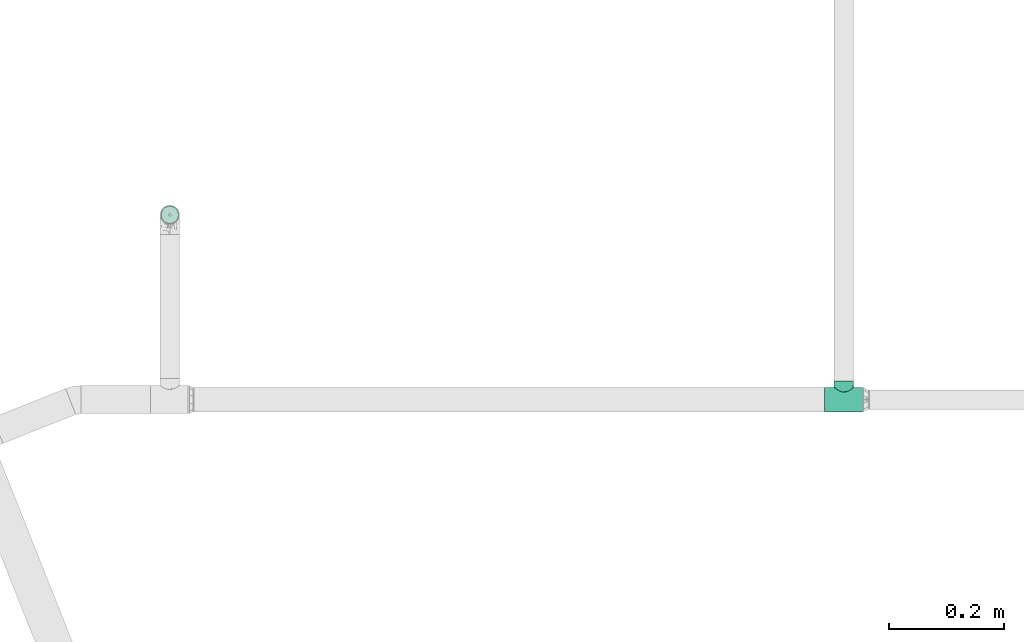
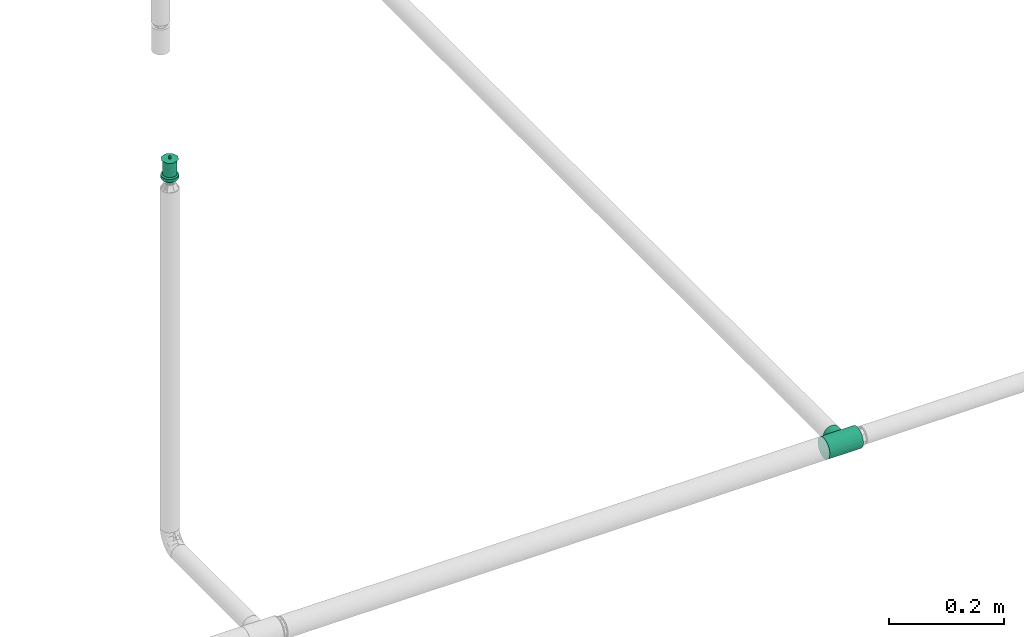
# One storey, part 44 of 94: 1 flow fitting, 1 flow terminal.
"""IFC2X3 building model written with IfcOpenShell, lengths in millimetres."""

from ifc_helpers import new_model, entity, si_unit, converted_unit, derived_unit, direction, frame, origin_with_axes, place, context, subcontext, project, spatial, open_shell, surface_model, source, transform, mapped, type_object, element, save


model = new_model("IFC2X3")

# Units and contexts
model_context = context("Model", 3, precision=0.01, world=frame((0.0, 4.29681676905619e-09, 0.0)), true_north=direction((4.01073788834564e-13, 1.0)))
plan_context = context("Plan", 3, precision=0.01, world=frame((0.0, 4.29681676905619e-09, 0.0)), true_north=direction((4.01073788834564e-13, 1.0)))
body_context = subcontext(model_context, "Body", "Model", "MODEL_VIEW")
ifc_project = project(units=[converted_unit("PLANEANGLEUNIT", "DEGREE", entity("IfcPositiveLengthMeasure", 0.0174532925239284), si_unit("PLANEANGLEUNIT", "RADIAN"), dimensions=[0, 0, 0, 0, 0, 0, 0]), si_unit("AREAUNIT", "SQUARE_METRE"), si_unit("LENGTHUNIT", "METRE", prefix="MILLI"), si_unit("MASSUNIT", "GRAM", prefix="KILO"), si_unit("POWERUNIT", "WATT"), si_unit("PRESSUREUNIT", "PASCAL", prefix="KILO"), si_unit("FORCEUNIT", "NEWTON", prefix="KILO"), si_unit("ELECTRICVOLTAGEUNIT", "VOLT"), si_unit("ELECTRICCURRENTUNIT", "AMPERE"), si_unit("THERMODYNAMICTEMPERATUREUNIT", "DEGREE_CELSIUS"), si_unit("TIMEUNIT", "SECOND"), si_unit("VOLUMEUNIT", "CUBIC_METRE"), derived_unit("LINEARVELOCITYUNIT", [(si_unit("LENGTHUNIT", "METRE"), 1), (si_unit("TIMEUNIT", "SECOND"), -1)]), derived_unit("VOLUMETRICFLOWRATEUNIT", [(si_unit("VOLUMEUNIT", "CUBIC_METRE"), 1), (si_unit("TIMEUNIT", "SECOND"), -1)]), derived_unit("THERMALTRANSMITTANCEUNIT", [(si_unit("POWERUNIT", "WATT"), 1), (si_unit("THERMODYNAMICTEMPERATUREUNIT", "KELVIN"), -1), (si_unit("AREAUNIT", "SQUARE_METRE"), -1)]), derived_unit("SOUNDPRESSUREUNIT", [(si_unit("PRESSUREUNIT", "PASCAL"), 1)])], contexts=[model_context, plan_context])

# Site, building, storey
site_placement = place(None, frame((0.0, -4.29681676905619e-09, 0.0), z_axis=(0.0, 0.0, 1.0), x_axis=(1.0, 0.0, 0.0)))
site = spatial("IfcSite", under=ifc_project, at=site_placement, CompositionType="ELEMENT")
building_placement = place(site_placement, frame((0.0, 4.29681676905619e-09, 0.0), z_axis=(0.0, 0.0, 1.0), x_axis=(1.0, 0.0, 0.0)))
building = spatial("IfcBuilding", under=site, at=building_placement, Name="mc-building", CompositionType="ELEMENT")
storey_placement = place(building_placement, frame((0.0, 0.0, 210900.0), z_axis=(0.0, 0.0, 1.0), x_axis=(1.0, 0.0, 0.0)))
storey = spatial("IfcBuildingStorey", under=building, at=storey_placement, Name="Nivå F", CompositionType="ELEMENT", Elevation=210900.0)

# Flow fitting
pipe_fitting_type = type_object("IfcPipeFittingType", Name="magi_pipe_fe_tee_centric_90_NOR", PredefinedType="JUNCTION")
shared_shape_1 = source(origin_with_axes(), body_context, "Body", "SurfaceModel", [
    surface_model("IfcShellBasedSurfaceModel", [(-33.8, 0.0, -21.2), (-33.8, -5.48696, -20.47763), (-33.8, 5.48696, -20.47763), (-33.8, 10.6, -18.35974), (-33.8, 14.99066, -14.99066), (-33.8, -20.47763, 5.48696), (-33.8, 18.35974, -10.6), (-33.8, 10.6, 18.35974), (-33.8, -14.99066, -14.99066), (-33.8, -18.35974, -10.6), (-33.8, -10.6, -18.35974), (-33.8, -20.47763, -5.48696), (-33.8, -21.2, 0.0), (-33.8, 18.35974, 10.6), (-33.8, 20.47763, -5.48696), (-33.8, 20.47763, 5.48696), (-33.8, 21.2, 0.0), (-33.8, 14.99066, 14.99066), (-33.8, 5.48696, 20.47763), (-33.8, 0.0, 21.2), (-33.8, -18.35974, 10.6), (-33.8, -14.99066, 14.99066), (-33.8, -10.6, 18.35974), (-33.8, -5.48696, 20.47763), (33.8, 5.48696, -20.47763), (33.8, -5.48696, -20.47763), (33.8, 0.0, -21.2), (33.8, 14.99066, -14.99066), (33.8, 10.6, -18.35974), (33.8, 18.35974, -10.6), (33.8, 20.47763, -5.48696), (33.8, -21.2, 0.0), (33.8, -10.6, -18.35974), (33.8, -18.35974, -10.6), (33.8, -14.99066, -14.99066), (33.8, -20.47763, -5.48696), (33.8, -20.47763, 5.48696), (33.8, 21.2, 0.0), (33.8, 20.47763, 5.48696), (33.8, 18.35974, 10.6), (33.8, 10.6, 18.35974), (33.8, 14.99066, 14.99066), (33.8, 0.0, 21.2), (33.8, 5.48696, 20.47763), (33.8, -14.99066, 14.99066), (33.8, -18.35974, 10.6), (33.8, -10.6, 18.35974), (33.8, -5.48696, 20.47763), (16.9, -21.2, 0.0), (15.78624, -20.32327, 6.03364), (12.81343, -18.11115, 11.01935), (8.52479, -15.37862, 14.59239), (3.07939, -13.16482, 16.61708), (-16.9, -21.2, 0.0), (-15.78686, -20.32375, 6.032), (-8.52604, -15.37932, 14.59166), (-3.0848, -13.16609, 16.61608), (-12.81602, -18.11299, 11.01634), (3.07939, -13.16482, -16.61708), (12.81343, -18.11115, -11.01935), (8.52479, -15.37862, -14.59239), (15.78624, -20.32327, -6.03364), (-3.0848, -13.16609, -16.61608), (-8.52604, -15.37932, -14.59166), (-12.81602, -18.11299, -11.01634), (-15.78686, -20.32375, -6.032), (4.37404, -31.8, -16.32415), (-16.9, -31.8, 0.0), (0.0, -31.8, -16.9), (14.63583, -31.8, -8.45), (8.45, -31.8, -14.63583), (16.32415, -31.8, -4.37404), (11.9501, -31.8, -11.9501), (-11.9501, -31.8, -11.9501), (-8.45, -31.8, -14.63583), (-4.37404, -31.8, -16.32415), (-14.63583, -31.8, -8.45), (-16.32415, -31.8, -4.37404), (16.9, -31.8, 0.0), (8.45, -31.8, 14.63583), (16.32415, -31.8, 4.37404), (14.63583, -31.8, 8.45), (-8.45, -31.8, 14.63583), (11.9501, -31.8, 11.9501), (4.37404, -31.8, 16.32415), (-16.32415, -31.8, 4.37404), (-11.9501, -31.8, 11.9501), (-14.63583, -31.8, 8.45), (0.0, -31.8, 16.9), (-4.37404, -31.8, 16.32415), (-16.34343, -20.76188, 3.016), (16.34312, -20.76163, 3.01682), (-0.00271, -13.16546, 16.61658), (16.34312, -20.76163, -3.01682), (-0.00271, -13.16546, -16.61658), (-16.34343, -20.76188, -3.016)], [open_shell([[[0, 1, 2]], [[3, 2, 4]], [[5, 2, 1]], [[4, 2, 6]], [[6, 2, 7]], [[8, 9, 10]], [[1, 10, 9]], [[9, 11, 1]], [[12, 1, 11]], [[5, 1, 12]], [[13, 14, 6]], [[13, 15, 16]], [[6, 7, 13]], [[5, 7, 2]], [[17, 13, 7]], [[18, 7, 19]], [[20, 21, 5]], [[22, 5, 21]], [[23, 19, 22]], [[7, 5, 22]], [[22, 19, 7]], [[16, 14, 13]], [[24, 25, 26]], [[27, 24, 28]], [[29, 30, 24]], [[29, 24, 27]], [[31, 24, 30]], [[32, 33, 34]], [[33, 32, 25]], [[33, 31, 35]], [[31, 33, 25]], [[25, 24, 31]], [[30, 36, 31]], [[37, 38, 39]], [[37, 39, 40]], [[37, 40, 36]], [[40, 39, 41]], [[42, 40, 43]], [[36, 44, 45]], [[44, 36, 46]], [[46, 42, 47]], [[46, 36, 40]], [[40, 42, 46]], [[37, 36, 30]], [[31, 36, 48]], [[49, 48, 36]], [[36, 45, 49]], [[45, 44, 50]], [[51, 50, 44]], [[52, 51, 44]], [[44, 46, 52]], [[45, 50, 49]], [[53, 54, 5]], [[5, 12, 53]], [[54, 20, 5]], [[55, 56, 21]], [[20, 57, 21]], [[57, 20, 54]], [[21, 57, 55]], [[56, 22, 21]], [[52, 22, 56]], [[19, 47, 42]], [[23, 46, 47]], [[18, 42, 43]], [[39, 38, 15]], [[17, 40, 41]], [[13, 41, 39]], [[43, 40, 7]], [[16, 38, 37]], [[22, 46, 23]], [[23, 47, 19]], [[18, 19, 42]], [[43, 7, 18]], [[7, 40, 17]], [[13, 17, 41]], [[15, 13, 39]], [[38, 16, 15]], [[46, 22, 52]], [[6, 30, 29]], [[14, 37, 30]], [[4, 29, 27]], [[26, 25, 1]], [[2, 28, 24]], [[0, 24, 26]], [[27, 28, 3]], [[10, 25, 32]], [[16, 37, 14]], [[14, 30, 6]], [[4, 6, 29]], [[27, 3, 4]], [[3, 28, 2]], [[0, 2, 24]], [[1, 0, 26]], [[25, 10, 1]], [[32, 58, 10]], [[34, 59, 60]], [[59, 34, 33]], [[60, 58, 34]], [[34, 58, 32]], [[35, 31, 48]], [[35, 61, 33]], [[61, 35, 48]], [[33, 61, 59]], [[62, 63, 8]], [[8, 64, 9]], [[64, 8, 63]], [[62, 8, 10]], [[65, 53, 11]], [[65, 11, 9]], [[11, 53, 12]], [[65, 9, 64]], [[58, 62, 10]], [[66, 67, 68]], [[69, 66, 70]], [[69, 71, 66]], [[69, 70, 72]], [[67, 66, 71]], [[68, 73, 74]], [[74, 75, 68]], [[76, 67, 77]], [[73, 68, 76]], [[67, 76, 68]], [[71, 78, 67]], [[79, 78, 80]], [[79, 80, 81]], [[82, 67, 79]], [[79, 81, 83]], [[82, 79, 84]], [[85, 86, 87]], [[86, 85, 82]], [[82, 88, 89]], [[85, 67, 82]], [[84, 88, 82]], [[79, 67, 78]], [[85, 90, 67]], [[57, 87, 86]], [[85, 87, 54]], [[86, 82, 55]], [[85, 54, 90]], [[90, 53, 67]], [[54, 87, 57]], [[91, 49, 80]], [[55, 89, 56]], [[55, 57, 86]], [[88, 52, 92]], [[55, 82, 89]], [[52, 88, 84]], [[79, 51, 84]], [[50, 83, 81]], [[83, 51, 79]], [[81, 80, 49]], [[83, 50, 51]], [[51, 52, 84]], [[78, 91, 80]], [[49, 50, 81]], [[91, 78, 48]], [[88, 56, 89]], [[92, 56, 88]], [[71, 93, 78]], [[59, 69, 72]], [[71, 69, 61]], [[72, 70, 60]], [[93, 48, 78]], [[61, 69, 59]], [[60, 66, 58]], [[60, 59, 72]], [[68, 62, 94]], [[60, 70, 66]], [[95, 67, 53]], [[95, 65, 77]], [[71, 61, 93]], [[75, 62, 68]], [[65, 76, 77]], [[73, 76, 64]], [[68, 58, 66]], [[75, 63, 62]], [[63, 75, 74]], [[74, 73, 63]], [[63, 73, 64]], [[64, 76, 65]], [[67, 95, 77]], [[94, 58, 68]]])]),
])
flow_fitting_placement = place(storey_placement, frame((720388.90308, 440878.08755, 3600.0), z_axis=(0.0, 0.0, 1.0), x_axis=(-1.0, 0.0, 0.0)))
element("IfcFlowFitting", 1, at=flow_fitting_placement, inside=storey, type_object=pipe_fitting_type, Name="magi_pipe_fe_tee_centric_90_NOR", context=body_context, shape_type="MappedRepresentation", body=[
    mapped(shared_shape_1, transform((0.0, 0.0, 0.0), scale=1.0)),
])

# Flow terminal
fire_suppression_terminal_type = type_object("IfcFireSuppressionTerminalType", Name="68DGR-STD-STÅENDE", PredefinedType="NOTDEFINED")
shared_shape_2 = source(origin_with_axes(), body_context, "Body", "SurfaceModel", [
    surface_model("IfcShellBasedSurfaceModel", [(3.36465, -12.55704, 51.0), (6.5, -11.25833, 51.0), (9.19239, -9.19239, 51.0), (12.55704, -3.36465, 51.0), (-11.25833, -6.5, 51.0), (11.25833, -6.5, 51.0), (-13.0, 0.0, 51.0), (0.0, -13.0, 51.0), (-6.5, -11.25833, 51.0), (-3.36465, -12.55704, 51.0), (-9.19239, -9.19239, 51.0), (-12.55704, -3.36465, 51.0), (13.0, 0.0, 51.0), (12.55704, 3.36465, 51.0), (11.25833, 6.5, 51.0), (9.19239, 9.19239, 51.0), (6.5, 11.25833, 51.0), (3.36465, 12.55704, 51.0), (0.0, 13.0, 51.0), (-3.36465, 12.55704, 51.0), (-12.55704, 3.36465, 51.0), (-9.19239, 9.19239, 51.0), (-11.25833, 6.5, 51.0), (-6.5, 11.25833, 51.0), (0.0, 13.0, 21.14766), (3.36465, 12.55704, 21.14766), (6.5, 11.25833, 21.14766), (-3.36465, 12.55704, 21.14766), (9.19239, 9.19239, 21.14766), (11.25833, 6.5, 21.14766), (12.55704, 3.36465, 21.14766), (-12.55704, 3.36465, 21.14766), (-11.25833, -6.5, 21.14766), (-9.19239, 9.19239, 21.14766), (-6.5, 11.25833, 21.14766), (-11.25833, 6.5, 21.14766), (-13.0, 0.0, 21.14766), (12.55704, -3.36465, 21.14766), (9.19239, -9.19239, 21.14766), (11.25833, -6.5, 21.14766), (6.5, -11.25833, 21.14766), (3.36465, -12.55704, 21.14766), (-6.5, -11.25833, 21.14766), (-9.19239, -9.19239, 21.14766), (-12.55704, -3.36465, 21.14766), (0.0, -13.0, 21.14766), (-3.36465, -12.55704, 21.14766), (13.0, 0.0, 21.14766), (7.24444, -1.94114, 0.1), (1.94114, -7.24444, 0.1), (3.75, -6.49519, 0.1), (5.3033, -5.3033, 0.1), (-5.3033, -5.3033, 0.1), (6.49519, -3.75, 0.1), (5.3033, 5.3033, 0.1), (0.0, -7.5, 0.1), (-3.75, -6.49519, 0.1), (-1.94114, -7.24444, 0.1), (-7.24444, -1.94114, 0.1), (-6.49519, -3.75, 0.1), (-7.24444, 1.94114, 0.1), (7.5, 0.0, 0.1), (6.49519, 3.75, 0.1), (-6.49519, 3.75, 0.1), (1.94114, 7.24444, 0.1), (0.0, 7.5, 0.1), (3.75, 6.49519, 0.1), (-7.5, 0.0, 0.1), (-5.3033, 5.3033, 0.1), (-1.94114, 7.24444, 0.1), (-3.75, 6.49519, 0.1), (7.24444, 1.94114, 0.1), (1.94114, 7.24444, -0.1), (-6.49519, 3.75, -0.1), (0.0, 7.5, -0.1), (5.3033, 5.3033, -0.1), (3.75, 6.49519, -0.1), (6.49519, 3.75, -0.1), (7.24444, 1.94114, -0.1), (-1.94114, 7.24444, -0.1), (-5.3033, 5.3033, -0.1), (-3.75, 6.49519, -0.1), (-7.24444, 1.94114, -0.1), (-7.24444, -1.94114, -0.1), (-7.5, 0.0, -0.1), (7.5, 0.0, -0.1), (7.24444, -1.94114, -0.1), (-5.3033, -5.3033, -0.1), (1.94114, -7.24444, -0.1), (6.49519, -3.75, -0.1), (5.3033, -5.3033, -0.1), (3.75, -6.49519, -0.1), (-6.49519, -3.75, -0.1), (-3.75, -6.49519, -0.1), (0.0, -7.5, -0.1), (-1.94114, -7.24444, -0.1), (0.0, -2.5, 51.0), (-2.5, 0.0, 51.0), (0.0, 2.5, 51.0), (2.5, 0.0, 51.0), (0.0, -16.0, 53.0), (11.31371, -11.31371, 53.0), (-11.31371, -11.31371, 53.0), (-16.0, 0.0, 53.0), (16.0, 0.0, 53.0), (11.31371, 11.31371, 53.0), (0.0, 16.0, 53.0), (-11.31371, 11.31371, 53.0), (1.25, -2.16506, 57.0), (0.0, -2.5, 57.0), (0.64705, -2.41481, 57.0), (2.41481, -0.64705, 57.0), (1.76777, -1.76777, 57.0), (-2.41481, -0.64705, 57.0), (-2.5, 0.0, 57.0), (2.16506, -1.25, 57.0), (-1.25, -2.16506, 57.0), (-0.64705, -2.41481, 57.0), (-1.76777, -1.76777, 57.0), (-2.16506, -1.25, 57.0), (2.5, 0.0, 57.0), (2.41481, 0.64705, 57.0), (2.16506, 1.25, 57.0), (1.76777, 1.76777, 57.0), (0.64705, 2.41481, 57.0), (1.25, 2.16506, 57.0), (-1.76777, 1.76777, 57.0), (0.0, 2.5, 57.0), (-2.16506, 1.25, 57.0), (-2.41481, 0.64705, 57.0), (-0.64705, 2.41481, 57.0), (-1.25, 2.16506, 57.0), (1.25, 2.16506, 51.0), (1.76777, 1.76777, 51.0), (1.15, 1.99186, 51.0), (0.59528, 2.22163, 51.0), (0.64705, 2.41481, 51.0), (0.0, 2.3, 51.0), (1.62635, 1.62635, 51.0), (2.41481, 0.64705, 51.0), (2.3, 0.0, 51.0), (2.22163, 0.59528, 51.0), (2.16506, 1.25, 51.0), (1.99186, 1.15, 51.0), (-0.59528, 2.22163, 51.0), (-0.64705, 2.41481, 51.0), (-1.15, 1.99186, 51.0), (-1.76777, 1.76777, 51.0), (-1.25, 2.16506, 51.0), (-1.62635, 1.62635, 51.0), (-1.99186, 1.15, 51.0), (-2.16506, 1.25, 51.0), (-2.22163, 0.59528, 51.0), (-2.41481, 0.64705, 51.0), (-2.3, 0.0, 51.0), (2.41481, -0.64705, 51.0), (2.22163, -0.59528, 51.0), (1.99186, -1.15, 51.0), (2.16506, -1.25, 51.0), (1.62635, -1.62635, 51.0), (1.76777, -1.76777, 51.0), (1.25, -2.16506, 51.0), (1.15, -1.99186, 51.0), (0.59528, -2.22163, 51.0), (0.64705, -2.41481, 51.0), (0.0, -2.3, 51.0), (-2.16506, -1.25, 51.0), (-1.99186, -1.15, 51.0), (-1.76777, -1.76777, 51.0), (-1.62635, -1.62635, 51.0), (-2.41481, -0.64705, 51.0), (-2.22163, -0.59528, 51.0), (-0.59528, -2.22163, 51.0), (-0.64705, -2.41481, 51.0), (-1.15, -1.99186, 51.0), (-1.25, -2.16506, 51.0), (1.62635, -1.62635, 56.8), (1.15, -1.99186, 56.8), (0.59528, -2.22163, 56.8), (0.0, -2.3, 56.8), (2.22163, 0.59528, 56.8), (1.99186, -1.15, 56.8), (2.22163, -0.59528, 56.8), (-0.59528, -2.22163, 56.8), (-1.15, -1.99186, 56.8), (-1.62635, -1.62635, 56.8), (-1.99186, -1.15, 56.8), (-2.22163, -0.59528, 56.8), (-1.99186, 1.15, 56.8), (2.3, 0.0, 56.8), (1.62635, 1.62635, 56.8), (1.99186, 1.15, 56.8), (1.15, 1.99186, 56.8), (0.0, 2.3, 56.8), (0.59528, 2.22163, 56.8), (-2.22163, 0.59528, 56.8), (-2.3, 0.0, 56.8), (-1.15, 1.99186, 56.8), (-0.59528, 2.22163, 56.8), (-1.62635, 1.62635, 56.8), (4.1411, -15.45481, 19.0), (8.0, -13.85641, 19.0), (11.31371, -11.31371, 19.0), (-8.0, -13.85641, 19.0), (15.45481, -4.1411, 19.0), (16.0, 0.0, 19.0), (13.85641, -8.0, 19.0), (0.0, -16.0, 19.0), (-4.1411, -15.45481, 19.0), (-13.85641, -8.0, 19.0), (-11.31371, -11.31371, 19.0), (-15.45481, -4.1411, 19.0), (15.45481, 4.1411, 19.0), (13.85641, 8.0, 19.0), (11.31371, 11.31371, 19.0), (-4.1411, 15.45481, 19.0), (8.0, 13.85641, 19.0), (4.1411, 15.45481, 19.0), (0.0, 16.0, 19.0), (-13.85641, 8.0, 19.0), (-15.45481, 4.1411, 19.0), (-16.0, 0.0, 19.0), (-11.31371, 11.31371, 19.0), (-8.0, 13.85641, 19.0), (0.0, 16.0, 13.0), (4.1411, 15.45481, 13.0), (8.0, 13.85641, 13.0), (-4.1411, 15.45481, 13.0), (11.31371, 11.31371, 13.0), (13.85641, 8.0, 13.0), (15.45481, 4.1411, 13.0), (-15.45481, -4.1411, 13.0), (-11.31371, 11.31371, 13.0), (-8.0, 13.85641, 13.0), (-13.85641, 8.0, 13.0), (-15.45481, 4.1411, 13.0), (-16.0, 0.0, 13.0), (4.1411, -15.45481, 13.0), (16.0, 0.0, 13.0), (15.45481, -4.1411, 13.0), (13.85641, -8.0, 13.0), (11.31371, -11.31371, 13.0), (8.0, -13.85641, 13.0), (-8.0, -13.85641, 13.0), (-13.85641, -8.0, 13.0), (-11.31371, -11.31371, 13.0), (0.0, -16.0, 13.0), (-4.1411, -15.45481, 13.0), (7.24444, -1.94114, 13.0), (1.94114, -7.24444, 13.0), (3.75, -6.49519, 13.0), (5.3033, -5.3033, 13.0), (-5.3033, -5.3033, 13.0), (6.49519, -3.75, 13.0), (5.3033, 5.3033, 13.0), (0.0, -7.5, 13.0), (-3.75, -6.49519, 13.0), (-1.94114, -7.24444, 13.0), (-7.24444, -1.94114, 13.0), (-6.49519, -3.75, 13.0), (-7.24444, 1.94114, 13.0), (7.5, 0.0, 13.0), (6.49519, 3.75, 13.0), (-6.49519, 3.75, 13.0), (1.94114, 7.24444, 13.0), (0.0, 7.5, 13.0), (3.75, 6.49519, 13.0), (-7.5, 0.0, 13.0), (-5.3033, 5.3033, 13.0), (-1.94114, 7.24444, 13.0), (-3.75, 6.49519, 13.0), (7.24444, 1.94114, 13.0), (3.75, 6.49519, 0.0), (5.3033, 5.3033, 0.0), (3.65, 6.32199, 0.0), (1.88938, 7.05126, 0.0), (0.0, 7.3, 0.0), (1.94114, 7.24444, 0.0), (0.0, 7.5, 0.0), (5.16188, 5.16188, 0.0), (7.24444, 1.94114, 0.0), (7.3, 0.0, 0.0), (7.05126, 1.88938, 0.0), (7.5, 0.0, 0.0), (6.49519, 3.75, 0.0), (6.32199, 3.65, 0.0), (-1.88938, 7.05126, 0.0), (-1.94114, 7.24444, 0.0), (-3.65, 6.32199, 0.0), (-5.3033, 5.3033, 0.0), (-3.75, 6.49519, 0.0), (-5.16188, 5.16188, 0.0), (-6.32199, 3.65, 0.0), (-6.49519, 3.75, 0.0), (-7.05126, 1.88938, 0.0), (-7.24444, 1.94114, 0.0), (-7.3, 0.0, 0.0), (-7.5, 0.0, 0.0), (7.24444, -1.94114, 0.0), (7.05126, -1.88938, 0.0), (6.32199, -3.65, 0.0), (6.49519, -3.75, 0.0), (5.16188, -5.16188, 0.0), (5.3033, -5.3033, 0.0), (3.75, -6.49519, 0.0), (3.65, -6.32199, 0.0), (1.88938, -7.05126, 0.0), (1.94114, -7.24444, 0.0), (0.0, -7.3, 0.0), (0.0, -7.5, 0.0), (-6.49519, -3.75, 0.0), (-6.32199, -3.65, 0.0), (-5.3033, -5.3033, 0.0), (-5.16188, -5.16188, 0.0), (-7.24444, -1.94114, 0.0), (-7.05126, -1.88938, 0.0), (-1.88938, -7.05126, 0.0), (-1.94114, -7.24444, 0.0), (-3.65, -6.32199, 0.0), (-3.75, -6.49519, 0.0), (1.88938, -7.05126, 12.8), (0.0, -7.3, 12.8), (3.65, -6.32199, 12.8), (5.16188, -5.16188, 12.8), (6.32199, -3.65, 12.8), (7.05126, 1.88938, 12.8), (7.05126, -1.88938, 12.8), (-5.16188, -5.16188, 12.8), (-1.88938, -7.05126, 12.8), (-3.65, -6.32199, 12.8), (-6.32199, -3.65, 12.8), (-7.05126, -1.88938, 12.8), (0.0, 7.3, 12.8), (7.3, 0.0, 12.8), (6.32199, 3.65, 12.8), (5.16188, 5.16188, 12.8), (3.65, 6.32199, 12.8), (1.88938, 7.05126, 12.8), (-6.32199, 3.65, 12.8), (-7.05126, 1.88938, 12.8), (-7.3, 0.0, 12.8), (-3.65, 6.32199, 12.8), (-1.88938, 7.05126, 12.8), (-5.16188, 5.16188, 12.8)], [open_shell([[[0, 1, 2]], [[0, 2, 3]], [[0, 3, 4]], [[3, 2, 5]], [[6, 4, 3]], [[7, 8, 9]], [[7, 0, 8]], [[8, 4, 10]], [[0, 4, 8]], [[4, 6, 11]], [[6, 3, 12]], [[13, 14, 15]], [[6, 13, 15]], [[16, 17, 18]], [[15, 16, 19]], [[18, 19, 16]], [[20, 21, 22]], [[20, 6, 15]], [[21, 19, 23]], [[19, 21, 20]], [[15, 19, 20]], [[13, 6, 12]], [[24, 25, 26]], [[27, 24, 26]], [[28, 29, 30]], [[26, 28, 31]], [[28, 32, 31]], [[27, 33, 34]], [[33, 27, 31]], [[33, 31, 35]], [[27, 26, 31]], [[31, 32, 36]], [[32, 28, 30]], [[32, 30, 37]], [[38, 37, 39]], [[38, 40, 41]], [[38, 41, 37]], [[32, 37, 41]], [[32, 42, 43]], [[44, 36, 32]], [[42, 45, 46]], [[42, 32, 41]], [[45, 42, 41]], [[30, 47, 37]], [[4, 32, 43]], [[8, 42, 46]], [[43, 42, 10]], [[9, 46, 45]], [[36, 11, 6]], [[11, 36, 44]], [[11, 44, 4]], [[44, 32, 4]], [[43, 10, 4]], [[8, 10, 42]], [[46, 9, 8]], [[45, 7, 9]], [[0, 41, 40]], [[38, 1, 40]], [[5, 39, 37]], [[38, 39, 2]], [[3, 37, 47]], [[41, 0, 7]], [[40, 1, 0]], [[38, 2, 1]], [[39, 5, 2]], [[3, 5, 37]], [[47, 12, 3]], [[41, 7, 45]], [[30, 13, 47]], [[29, 14, 30]], [[25, 24, 17]], [[15, 29, 28]], [[30, 14, 13]], [[13, 12, 47]], [[16, 26, 17]], [[16, 15, 28]], [[26, 25, 17]], [[15, 14, 29]], [[28, 26, 16]], [[24, 18, 17]], [[19, 27, 34]], [[33, 23, 34]], [[22, 35, 31]], [[33, 35, 21]], [[20, 31, 36]], [[27, 19, 18]], [[34, 23, 19]], [[33, 21, 23]], [[35, 22, 21]], [[20, 22, 31]], [[36, 6, 20]], [[27, 18, 24]], [[48, 49, 50]], [[48, 50, 51]], [[49, 48, 52]], [[48, 51, 53]], [[54, 52, 48]], [[55, 56, 57]], [[56, 55, 52]], [[52, 58, 59]], [[52, 55, 49]], [[52, 60, 58]], [[54, 48, 61]], [[62, 54, 61]], [[54, 63, 52]], [[64, 65, 54]], [[64, 54, 66]], [[63, 54, 65]], [[63, 60, 52]], [[67, 58, 60]], [[68, 69, 70]], [[69, 68, 63]], [[69, 63, 65]], [[71, 62, 61]], [[72, 73, 74]], [[75, 72, 76]], [[75, 77, 78]], [[72, 75, 73]], [[78, 73, 75]], [[79, 80, 81]], [[80, 79, 73]], [[74, 73, 79]], [[78, 82, 73]], [[82, 83, 84]], [[82, 78, 85]], [[86, 87, 85]], [[88, 86, 89]], [[90, 91, 88]], [[90, 88, 89]], [[87, 86, 88]], [[83, 87, 92]], [[83, 85, 87]], [[93, 94, 95]], [[94, 93, 87]], [[88, 94, 87]], [[85, 83, 82]], [[83, 58, 84]], [[92, 59, 83]], [[56, 87, 93]], [[92, 87, 52]], [[57, 93, 95]], [[83, 59, 58]], [[58, 67, 84]], [[57, 56, 93]], [[52, 87, 56]], [[52, 59, 92]], [[55, 57, 95]], [[95, 94, 55]], [[88, 49, 94]], [[91, 50, 88]], [[53, 90, 89]], [[91, 90, 51]], [[48, 89, 86]], [[91, 51, 50]], [[50, 49, 88]], [[61, 48, 86]], [[53, 89, 48]], [[53, 51, 90]], [[85, 61, 86]], [[94, 49, 55]], [[78, 71, 85]], [[77, 62, 78]], [[66, 75, 76]], [[77, 75, 54]], [[64, 76, 72]], [[78, 62, 71]], [[71, 61, 85]], [[64, 66, 76]], [[54, 75, 66]], [[54, 62, 77]], [[65, 64, 72]], [[72, 74, 65]], [[79, 69, 74]], [[81, 70, 79]], [[63, 80, 73]], [[81, 80, 68]], [[60, 73, 82]], [[81, 68, 70]], [[70, 69, 79]], [[67, 60, 82]], [[63, 73, 60]], [[63, 68, 80]], [[84, 67, 82]], [[74, 69, 65]], [[96, 97, 98]], [[98, 99, 96]], [[100, 101, 102]], [[103, 102, 101]], [[101, 104, 103]], [[104, 105, 106]], [[107, 103, 106]], [[106, 103, 104]], [[99, 98, 105]], [[105, 104, 99]], [[98, 106, 105]], [[98, 107, 106]], [[107, 98, 97]], [[103, 107, 97]], [[97, 96, 102]], [[102, 103, 97]], [[96, 100, 102]], [[96, 101, 100]], [[101, 96, 99]], [[104, 101, 99]], [[108, 109, 110]], [[111, 108, 112]], [[113, 108, 114]], [[111, 112, 115]], [[108, 111, 114]], [[109, 116, 117]], [[116, 109, 118]], [[118, 113, 119]], [[118, 109, 108]], [[108, 113, 118]], [[111, 120, 114]], [[121, 122, 123]], [[114, 121, 123]], [[114, 123, 124]], [[124, 123, 125]], [[126, 124, 127]], [[124, 128, 129]], [[129, 114, 124]], [[126, 130, 131]], [[128, 124, 126]], [[130, 126, 127]], [[121, 114, 120]], [[132, 133, 134]], [[132, 134, 135]], [[136, 135, 137]], [[135, 136, 132]], [[136, 137, 98]], [[134, 133, 138]], [[139, 140, 141]], [[140, 139, 99]], [[139, 141, 142]], [[138, 142, 143]], [[142, 138, 133]], [[143, 142, 141]], [[98, 144, 145]], [[98, 137, 144]], [[145, 144, 146]], [[147, 148, 149]], [[146, 148, 145]], [[149, 148, 146]], [[150, 151, 147]], [[151, 150, 152]], [[150, 147, 149]], [[153, 152, 154]], [[152, 153, 151]], [[153, 154, 97]], [[99, 155, 156]], [[156, 155, 157]], [[157, 158, 159]], [[158, 157, 155]], [[159, 158, 160]], [[160, 161, 162]], [[162, 161, 163]], [[163, 164, 165]], [[164, 163, 161]], [[165, 164, 96]], [[162, 159, 160]], [[166, 167, 168]], [[168, 167, 169]], [[167, 166, 170]], [[97, 171, 170]], [[170, 171, 167]], [[97, 154, 171]], [[172, 96, 173]], [[172, 173, 174]], [[169, 175, 168]], [[175, 169, 174]], [[175, 174, 173]], [[165, 96, 172]], [[156, 140, 99]], [[170, 113, 97]], [[166, 119, 170]], [[116, 168, 175]], [[166, 168, 118]], [[117, 175, 173]], [[170, 119, 113]], [[113, 114, 97]], [[117, 116, 175]], [[118, 168, 116]], [[118, 119, 166]], [[109, 117, 173]], [[173, 96, 109]], [[164, 110, 96]], [[161, 108, 164]], [[115, 160, 158]], [[161, 160, 112]], [[111, 158, 155]], [[161, 112, 108]], [[108, 110, 164]], [[120, 111, 155]], [[115, 158, 111]], [[115, 112, 160]], [[99, 120, 155]], [[96, 110, 109]], [[139, 121, 99]], [[142, 122, 139]], [[125, 133, 132]], [[142, 133, 123]], [[124, 132, 136]], [[139, 122, 121]], [[121, 120, 99]], [[124, 125, 132]], [[123, 133, 125]], [[123, 122, 142]], [[127, 124, 136]], [[136, 98, 127]], [[145, 130, 98]], [[148, 131, 145]], [[128, 147, 151]], [[148, 147, 126]], [[129, 151, 153]], [[148, 126, 131]], [[131, 130, 145]], [[114, 129, 153]], [[128, 151, 129]], [[128, 126, 147]], [[97, 114, 153]], [[98, 130, 127]], [[176, 177, 178]], [[176, 178, 179]], [[180, 176, 179]], [[181, 176, 182]], [[180, 182, 176]], [[183, 184, 179]], [[185, 179, 184]], [[186, 187, 185]], [[185, 187, 188]], [[179, 185, 188]], [[189, 182, 180]], [[190, 191, 180]], [[192, 190, 180]], [[193, 194, 192]], [[180, 193, 192]], [[188, 193, 180]], [[195, 188, 196]], [[196, 188, 187]], [[197, 198, 199]], [[188, 199, 198]], [[188, 198, 193]], [[180, 179, 188]], [[154, 187, 171]], [[171, 186, 167]], [[174, 169, 184]], [[185, 169, 167]], [[172, 174, 183]], [[187, 186, 171]], [[154, 196, 187]], [[174, 184, 183]], [[184, 169, 185]], [[167, 186, 185]], [[172, 183, 179]], [[179, 165, 172]], [[165, 178, 163]], [[163, 177, 162]], [[157, 159, 181]], [[176, 159, 162]], [[156, 157, 182]], [[177, 176, 162]], [[163, 178, 177]], [[156, 182, 189]], [[182, 157, 181]], [[159, 176, 181]], [[156, 189, 140]], [[179, 178, 165]], [[140, 180, 141]], [[141, 191, 143]], [[134, 138, 192]], [[190, 138, 143]], [[135, 134, 194]], [[180, 191, 141]], [[140, 189, 180]], [[134, 192, 194]], [[192, 138, 190]], [[143, 191, 190]], [[135, 194, 193]], [[193, 137, 135]], [[137, 198, 144]], [[144, 197, 146]], [[150, 149, 188]], [[199, 149, 146]], [[152, 150, 195]], [[197, 199, 146]], [[144, 198, 197]], [[152, 195, 196]], [[195, 150, 188]], [[149, 199, 188]], [[152, 196, 154]], [[193, 198, 137]], [[200, 201, 202]], [[203, 200, 202]], [[204, 205, 202]], [[204, 202, 206]], [[203, 202, 205]], [[207, 203, 208]], [[207, 200, 203]], [[203, 209, 210]], [[209, 203, 211]], [[205, 211, 203]], [[205, 212, 211]], [[212, 213, 214]], [[215, 212, 214]], [[216, 217, 218]], [[214, 216, 215]], [[218, 215, 216]], [[211, 219, 220]], [[221, 211, 220]], [[222, 215, 223]], [[215, 222, 219]], [[219, 211, 215]], [[211, 212, 215]], [[224, 225, 226]], [[227, 224, 226]], [[228, 229, 230]], [[227, 226, 228]], [[227, 228, 231]], [[227, 232, 233]], [[232, 227, 234]], [[234, 231, 235]], [[231, 234, 227]], [[235, 231, 236]], [[228, 230, 231]], [[237, 238, 239]], [[237, 239, 240]], [[241, 242, 237]], [[241, 237, 240]], [[238, 237, 243]], [[244, 243, 245]], [[243, 244, 231]], [[243, 246, 247]], [[243, 231, 238]], [[237, 246, 243]], [[238, 231, 230]], [[231, 211, 236]], [[244, 209, 231]], [[203, 245, 243]], [[244, 245, 210]], [[208, 243, 247]], [[231, 209, 211]], [[211, 221, 236]], [[208, 203, 243]], [[210, 245, 203]], [[210, 209, 244]], [[207, 208, 247]], [[247, 246, 207]], [[237, 200, 246]], [[242, 201, 237]], [[206, 241, 240]], [[242, 241, 202]], [[204, 240, 239]], [[242, 202, 201]], [[201, 200, 237]], [[205, 204, 239]], [[206, 240, 204]], [[206, 202, 241]], [[238, 205, 239]], [[246, 200, 207]], [[230, 212, 238]], [[229, 213, 230]], [[216, 228, 226]], [[229, 228, 214]], [[217, 226, 225]], [[230, 213, 212]], [[212, 205, 238]], [[217, 216, 226]], [[214, 228, 216]], [[214, 213, 229]], [[218, 217, 225]], [[225, 224, 218]], [[227, 215, 224]], [[233, 223, 227]], [[219, 232, 234]], [[233, 232, 222]], [[220, 234, 235]], [[233, 222, 223]], [[223, 215, 227]], [[221, 220, 235]], [[219, 234, 220]], [[219, 222, 232]], [[236, 221, 235]], [[224, 215, 218]], [[248, 249, 250]], [[248, 250, 251]], [[249, 248, 252]], [[248, 251, 253]], [[254, 252, 248]], [[255, 256, 257]], [[256, 255, 252]], [[252, 258, 259]], [[252, 255, 249]], [[252, 260, 258]], [[254, 248, 261]], [[262, 254, 261]], [[254, 263, 252]], [[264, 265, 254]], [[264, 254, 266]], [[263, 254, 265]], [[263, 260, 252]], [[267, 258, 260]], [[268, 269, 270]], [[269, 268, 263]], [[269, 263, 265]], [[271, 262, 261]], [[272, 273, 274]], [[272, 274, 275]], [[276, 277, 275]], [[277, 276, 278]], [[275, 277, 272]], [[274, 273, 279]], [[280, 281, 282]], [[281, 280, 283]], [[280, 282, 284]], [[279, 284, 285]], [[284, 279, 273]], [[285, 284, 282]], [[278, 286, 287]], [[287, 286, 288]], [[289, 290, 291]], [[288, 290, 287]], [[288, 291, 290]], [[278, 276, 286]], [[292, 293, 289]], [[293, 292, 294]], [[292, 289, 291]], [[295, 294, 296]], [[294, 295, 293]], [[295, 296, 297]], [[283, 298, 299]], [[299, 298, 300]], [[300, 301, 302]], [[301, 300, 298]], [[302, 301, 303]], [[303, 304, 305]], [[305, 304, 306]], [[306, 307, 308]], [[307, 306, 304]], [[308, 307, 309]], [[305, 302, 303]], [[310, 311, 312]], [[312, 311, 313]], [[311, 310, 314]], [[297, 315, 314]], [[314, 315, 311]], [[297, 296, 315]], [[316, 309, 317]], [[316, 317, 318]], [[313, 319, 312]], [[313, 318, 319]], [[319, 318, 317]], [[308, 309, 316]], [[299, 281, 283]], [[314, 258, 297]], [[310, 259, 314]], [[256, 312, 319]], [[310, 312, 252]], [[257, 319, 317]], [[314, 259, 258]], [[258, 267, 297]], [[257, 256, 319]], [[252, 312, 256]], [[252, 259, 310]], [[255, 257, 317]], [[317, 309, 255]], [[307, 249, 309]], [[304, 250, 307]], [[253, 303, 301]], [[304, 303, 251]], [[248, 301, 298]], [[304, 251, 250]], [[250, 249, 307]], [[261, 248, 298]], [[253, 301, 248]], [[253, 251, 303]], [[283, 261, 298]], [[309, 249, 255]], [[280, 271, 283]], [[284, 262, 280]], [[266, 273, 272]], [[284, 273, 254]], [[264, 272, 277]], [[280, 262, 271]], [[271, 261, 283]], [[264, 266, 272]], [[254, 273, 266]], [[254, 262, 284]], [[265, 264, 277]], [[277, 278, 265]], [[287, 269, 278]], [[290, 270, 287]], [[263, 289, 293]], [[290, 289, 268]], [[260, 293, 295]], [[290, 268, 270]], [[270, 269, 287]], [[267, 260, 295]], [[263, 293, 260]], [[263, 268, 289]], [[297, 267, 295]], [[278, 269, 265]], [[320, 321, 322]], [[323, 322, 324]], [[325, 326, 322]], [[324, 322, 326]], [[322, 327, 325]], [[328, 329, 321]], [[327, 321, 329]], [[330, 331, 327]], [[322, 321, 327]], [[331, 332, 327]], [[326, 325, 333]], [[334, 325, 332]], [[335, 334, 336]], [[332, 337, 336]], [[334, 332, 336]], [[331, 338, 332]], [[339, 338, 340]], [[340, 338, 331]], [[341, 342, 343]], [[332, 338, 343]], [[332, 343, 342]], [[332, 325, 327]], [[296, 331, 315]], [[315, 330, 311]], [[318, 313, 329]], [[327, 313, 311]], [[316, 318, 328]], [[331, 330, 315]], [[296, 340, 331]], [[318, 329, 328]], [[329, 313, 327]], [[311, 330, 327]], [[316, 328, 321]], [[321, 308, 316]], [[308, 320, 306]], [[306, 322, 305]], [[300, 302, 324]], [[323, 302, 305]], [[299, 300, 326]], [[322, 323, 305]], [[306, 320, 322]], [[299, 326, 333]], [[326, 300, 324]], [[302, 323, 324]], [[299, 333, 281]], [[321, 320, 308]], [[281, 325, 282]], [[282, 334, 285]], [[274, 279, 336]], [[335, 279, 285]], [[275, 274, 337]], [[325, 334, 282]], [[281, 333, 325]], [[274, 336, 337]], [[336, 279, 335]], [[285, 334, 335]], [[275, 337, 332]], [[332, 276, 275]], [[276, 342, 286]], [[286, 341, 288]], [[292, 291, 338]], [[343, 291, 288]], [[294, 292, 339]], [[341, 343, 288]], [[286, 342, 341]], [[294, 339, 340]], [[339, 292, 338]], [[291, 343, 338]], [[294, 340, 296]], [[332, 342, 276]]])]),
])
flow_terminal_placement = place(storey_placement, frame((719221.4788, 441198.08755, 4367.0), z_axis=(0.0, 0.0, 1.0), x_axis=(1.0, 0.0, 0.0)))
element("IfcFlowTerminal", 2, at=flow_terminal_placement, inside=storey, type_object=fire_suppression_terminal_type, Name="68DGR-STD-STÅENDE", context=body_context, shape_type="MappedRepresentation", body=[
    mapped(shared_shape_2, transform((0.0, 0.0, 0.0), scale=1.0)),
])

save(model, "model.ifc")
